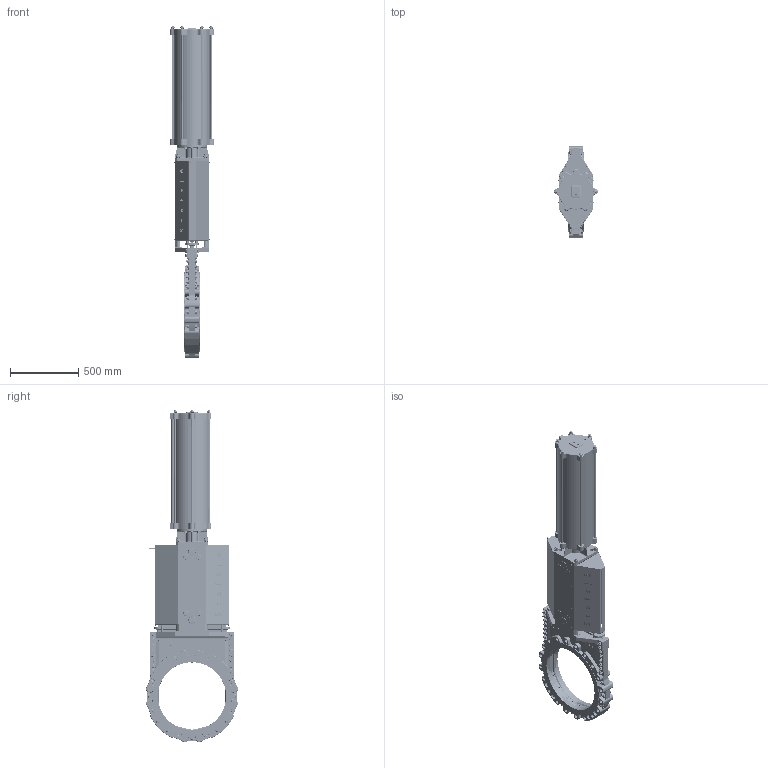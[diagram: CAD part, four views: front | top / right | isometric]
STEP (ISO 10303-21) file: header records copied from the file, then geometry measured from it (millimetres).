
FILE_DESCRIPTION(/* description */ ('','CAx-IF Rec.Pracs.---Representation and Presentation of Product Manufacturing Information (PMI)---4.0---2014-10-13'),/* implementation_level */ '2;1');
FILE_NAME(/* name */ 'F:\3D Sammanställningar\WB\DN500\WB14E-WEE-DN500-ANSI150-SC250.stp',/* time_stamp */ '2022-01-10T11:52:22+01:00',/* author */ ('MATZET'),/* organization */ (''),/* preprocessor_version */ 'ST-DEVELOPER v18',/* originating_system */ 'Autodesk Inventor 2020',/* authorisation */ '');
FILE_SCHEMA (('AP242_MANAGED_MODEL_BASED_3D_ENGINEERING_MIM_LF { 1 0 10303 442 1 1 4 }'));
Products named in the file (1): WB14E-WEE-DN500-ANSI150-SC250_Shrinkwrap_1
Bounding box: 322 x 674.1 x 2439.55 mm (x, y, z)
Volume: 47600957.6 mm3; surface area: 7973730.1 mm2
Topology: 1 solids, 1 shells, 6375 faces, 16507 edges, 10591 vertices
Faces by surface type: plane 2848, cylinder 1532, bspline 840, cone 556, torus 423, sphere 176
Full cylindrical faces by diameter (mm): 3 x7, 3.6 x16, 4 x2, 4.2 x9, 4.3 x2, 4.5 x8, 4.917 x7, 5 x2, 5.7 x7, 6 x1, 6.4 x2, 6.647 x4, 7 x1, 7.455 x6, 7.5 x4, 8.376 x4, 8.88 x1, 9.5 x2, 10.106 x10, 11 x6, 12 x4, 12.5 x6, 13 x4, 14 x7, 15 x1, 16 x41, 17 x10, 17.294 x4, 17.5 x6, 18 x1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
Entity records: 222469 total; most frequent: CARTESIAN_POINT 65850, ORIENTED_EDGE 32882, DIRECTION 30085, EDGE_CURVE 16441, AXIS2_PLACEMENT_3D 11230, VERTEX_POINT 10590, LINE 7625, VECTOR 7625
